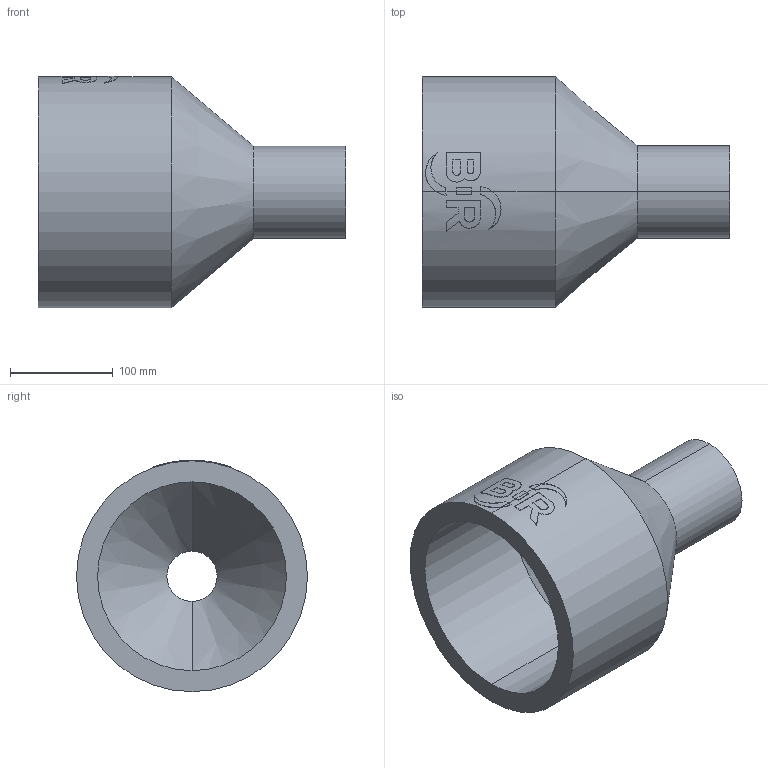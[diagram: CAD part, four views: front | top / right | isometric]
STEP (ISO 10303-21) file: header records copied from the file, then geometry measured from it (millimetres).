
FILE_DESCRIPTION (( 'STEP AP214' ), '1' );
FILE_NAME ('2323201335.STEP', '2018-07-20T11:23:37', ( '' ), ( '' ), 'SwSTEP 2.0', 'SolidWorks 2017', '' );
FILE_SCHEMA (( 'AUTOMOTIVE_DESIGN' ));
Length unit declared in the file: millimetre
Products named in the file (1): 2323201335
Bounding box: 300 x 225 x 225.46 mm (x, y, z)
Volume: 3006886.4 mm3; surface area: 311215.8 mm2
Topology: 1 solids, 1 shells, 63 faces, 160 edges, 104 vertices
Faces by surface type: cylinder 31, plane 28, cone 4
Entity records: 3325 total; most frequent: CARTESIAN_POINT 1116, ORIENTED_EDGE 320, DIRECTION 296, EDGE_CURVE 160, AXIS2_PLACEMENT_3D 112, VERTEX_POINT 104, LINE 72, VECTOR 72
